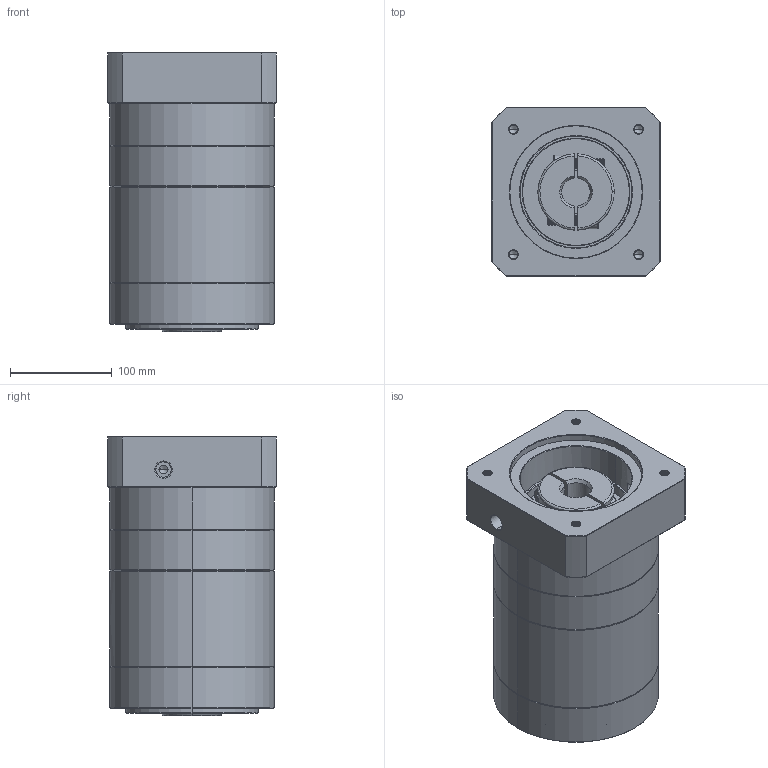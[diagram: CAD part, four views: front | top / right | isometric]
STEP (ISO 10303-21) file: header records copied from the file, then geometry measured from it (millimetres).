
FILE_DESCRIPTION (( 'STEP AP214' ), '1' );
FILE_NAME ('ZE160A-K35-L3-P2-28-130-174-M10.step', '2023-09-04T02:54:45', ( '' ), ( '' ), 'SwSTEP 2.0', 'SolidWorks 2016', '' );
FILE_SCHEMA (( 'AUTOMOTIVE_DESIGN' ));
Length unit declared in the file: millimetre
Products named in the file (1): ZE160A-K35-L3-P2-28-130-174-M10
Bounding box: 166 x 166 x 274.2 mm (x, y, z)
Volume: 5364006.8 mm3; surface area: 343973.5 mm2
Topology: 6 solids, 6 shells, 2273 faces, 6195 edges, 4021 vertices
Faces by surface type: plane 1005, cylinder 512, bspline 420, cone 316, torus 20
Entity records: 138391 total; most frequent: CARTESIAN_POINT 61784, ORIENTED_EDGE 12318, DIRECTION 8791, EDGE_CURVE 6159, VERTEX_POINT 4021, VECTOR 3145, LINE 3145, AXIS2_PLACEMENT_3D 2823
